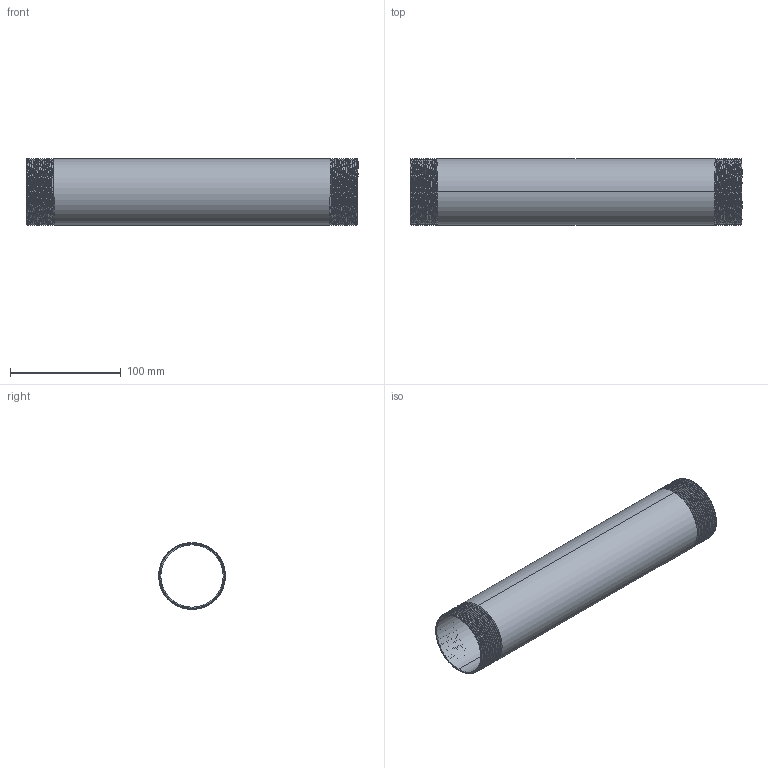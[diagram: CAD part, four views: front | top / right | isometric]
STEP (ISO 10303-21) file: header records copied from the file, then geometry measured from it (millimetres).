
FILE_DESCRIPTION (( 'STEP AP203' ), '1' );
FILE_NAME ('3D_R210_2x300_17185963.STEP', '2024-08-16T14:29:18', ( '' ), ( '' ), 'SwSTEP 2.0', 'SolidWorks 2024', '' );
FILE_SCHEMA (( 'CONFIG_CONTROL_DESIGN' ));
Length unit declared in the file: millimetre
Products named in the file (1): 3D_R210_2x300_17185963
Bounding box: 300 x 60.2 x 60.3 mm (x, y, z)
Volume: 103879.1 mm3; surface area: 115440.3 mm2
Topology: 1 solids, 1 shells, 68 faces, 192 edges, 126 vertices
Faces by surface type: cone 54, bspline 6, cylinder 4, plane 4
Entity records: 12689 total; most frequent: CARTESIAN_POINT 11103, ORIENTED_EDGE 384, DIRECTION 212, EDGE_CURVE 192, VERTEX_POINT 126, B_SPLINE_CURVE_WITH_KNOTS 110, AXIS2_PLACEMENT_3D 75, EDGE_LOOP 70
